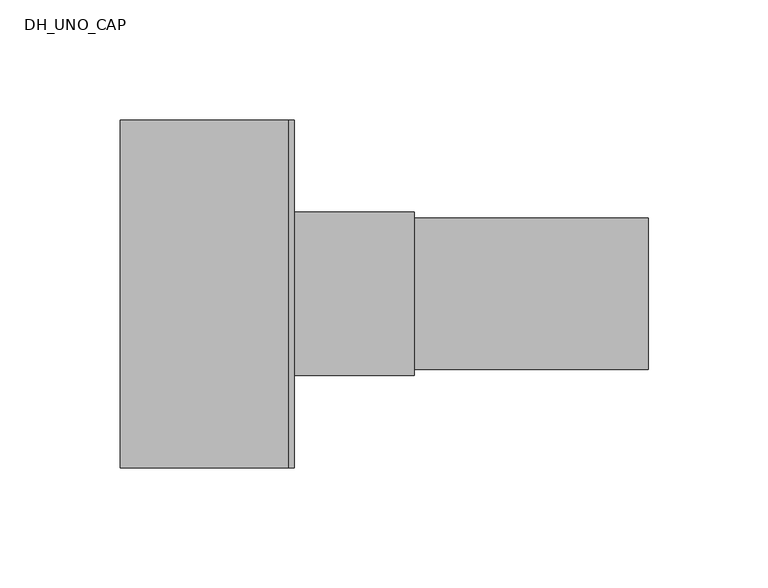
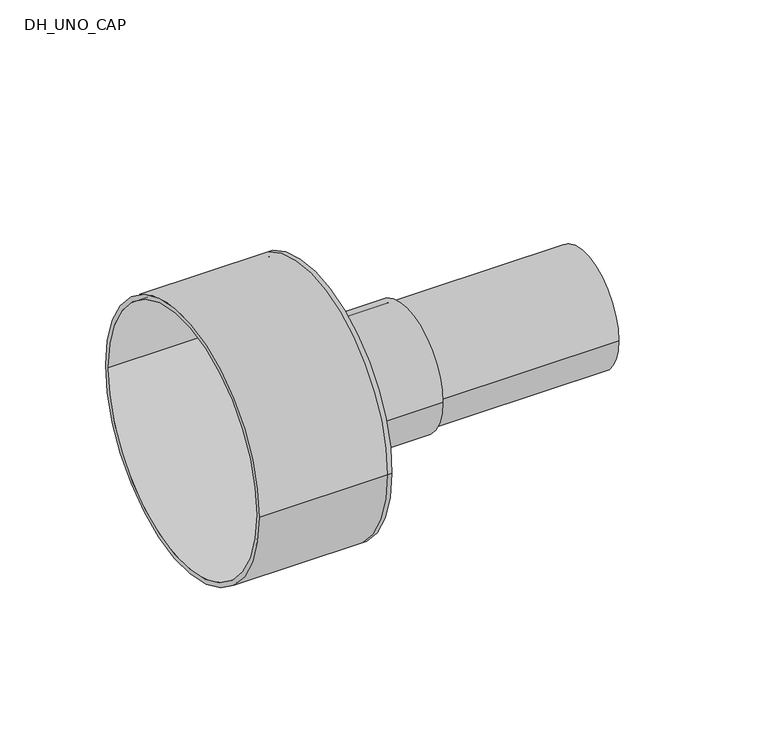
"""IFC4 building model written with IfcOpenShell, lengths in millimetres: pipe fitting geometry, DH_UNO_CAP : INSULPEX UNO + 11 Heating - Rubber Cap."""

from ifc_helpers import new_model, si_unit, point, frame, origin, origin_2d, place, context, project, spatial, polyline, circle_curve, trimmed, segment, composite_curve, outline, extrude, source, transform, mapped, element, save
from ifc_brep_helpers import plane_surface, cylinder_surface, revolved_surface, advanced_brep


def dh_uno_cap_60eb62a6(model_context):
    return source(origin(), model_context, "Body", "SolidModel", [
        extrude(outline(composite_curve([segment(trimmed(circle_curve(origin_2d(), 31.5), [point((-31.5, 0.0))], [point((31.5, 0.0))], False, "CARTESIAN"), True, "CONTINUOUS"), segment(trimmed(circle_curve(origin_2d(), 31.5), [point((31.5, 0.0))], [point((-31.5, 0.0))], False, "CARTESIAN"), True, "CONTINUOUS")], self_intersect=False), holes=[composite_curve([segment(trimmed(circle_curve(origin_2d(), 25.7), [point((-25.7, 0.0))], [point((25.7, 0.0))], True, "CARTESIAN"), True, "CONTINUOUS"), segment(trimmed(circle_curve(origin_2d(), 25.7), [point((25.7, 0.0))], [point((-25.7, 0.0))], True, "CARTESIAN"), True, "CONTINUOUS")], self_intersect=False)]), frame((0.0, 0.0, 0.0), z_axis=(1.0, 0.0, 0.0), x_axis=(0.0, 1.0, 0.0)), (0.0, 0.0, 1.0), 150.0),
        advanced_brep(
        [(-70.0, -72.5, 0.0), (-70.0, 72.5, 0.0), (-70.0, -70.0, 0.0), (-70.0, 70.0, 0.0), (0.0, -70.0, 0.0), (0.0, 70.0, 0.0), (0.0, -72.5, 0.0), (0.0, 72.5, 0.0), (0.0, 31.5, 0.0), (0.0, -31.5, 0.0), (2.5, -72.5, 0.0), (2.5, 72.5, 0.0), (2.5, -31.5, 0.0), (2.5, 31.5, 0.0)],
        [
            (0, 1, circle_curve(frame((-70.0, 0.0, 0.0), z_axis=(-1.0, 0.0, 0.0), x_axis=(0.0, 1.0, 0.0)), 72.5)),
            (1, 0, circle_curve(frame((-70.0, 0.0, 0.0), z_axis=(-1.0, 0.0, 0.0), x_axis=(0.0, 1.0, 0.0)), 72.5)),
            (2, 3, circle_curve(frame((-70.0, 0.0, 0.0), z_axis=(1.0, 0.0, 0.0), x_axis=(0.0, 1.0, 0.0)), 70.0)),
            (3, 2, circle_curve(frame((-70.0, 0.0, 0.0), z_axis=(1.0, 0.0, 0.0), x_axis=(0.0, 1.0, 0.0)), 70.0)),
            (2, 4),
            (4, 5, circle_curve(frame((0.0, 0.0, 0.0), z_axis=(1.0, 0.0, 0.0), x_axis=(0.0, 1.0, 0.0)), 70.0)),
            (5, 3),
            (5, 4, circle_curve(frame((0.0, 0.0, 0.0), z_axis=(1.0, 0.0, 0.0), x_axis=(0.0, 1.0, 0.0)), 70.0)),
            (0, 6),
            (6, 7, circle_curve(frame((0.0, 0.0, 0.0), z_axis=(-1.0, 0.0, 0.0), x_axis=(0.0, 1.0, 0.0)), 72.5)),
            (7, 1),
            (7, 6, circle_curve(frame((0.0, 0.0, 0.0), z_axis=(-1.0, 0.0, 0.0), x_axis=(0.0, 1.0, 0.0)), 72.5)),
            (8, 9, circle_curve(frame((0.0, 0.0, 0.0), z_axis=(1.0, 0.0, 0.0), x_axis=(0.0, 1.0, 0.0)), 31.5)),
            (9, 8, circle_curve(frame((0.0, 0.0, 0.0), z_axis=(1.0, 0.0, 0.0), x_axis=(0.0, 1.0, 0.0)), 31.5)),
            (10, 11, circle_curve(frame((2.5, 0.0, 0.0), z_axis=(1.0, 0.0, 0.0), x_axis=(0.0, 1.0, 0.0)), 72.5)),
            (11, 10, circle_curve(frame((2.5, 0.0, 0.0), z_axis=(1.0, 0.0, 0.0), x_axis=(0.0, 1.0, 0.0)), 72.5)),
            (12, 13, circle_curve(frame((2.5, 0.0, 0.0), z_axis=(-1.0, 0.0, 0.0), x_axis=(0.0, 1.0, 0.0)), 31.5)),
            (13, 12, circle_curve(frame((2.5, 0.0, 0.0), z_axis=(-1.0, 0.0, 0.0), x_axis=(0.0, 1.0, 0.0)), 31.5)),
            (11, 7),
            (6, 10),
            (8, 13),
            (12, 9),
        ],
        [
            plane_surface(frame((-70.0, 0.0, 0.0), z_axis=(-1.0, 0.0, 0.0), x_axis=(0.0, 0.0, 1.0))),
            revolved_surface(polyline([(0.0, 70.0, 0.0), (-70.0, 70.0, 0.0)]), (-70.0, 0.0, 0.0), (1.0, 0.0, 0.0)),
            cylinder_surface(frame((-70.0, 0.0, 0.0), z_axis=(-1.0, 0.0, 0.0), x_axis=(0.0, 1.0, 0.0)), 72.5),
            plane_surface(frame((0.0, 0.0, 0.0), z_axis=(-1.0, 0.0, 0.0), x_axis=(0.0, 0.0, 1.0))),
            plane_surface(frame((2.5, 0.0, 0.0), z_axis=(1.0, 0.0, 0.0), x_axis=(0.0, 0.0, 1.0))),
            cylinder_surface(frame((0.0, 0.0, 0.0), z_axis=(-1.0, 0.0, 0.0), x_axis=(0.0, 1.0, 0.0)), 72.5),
            revolved_surface(polyline([(0.0, 31.5, 0.0), (2.5, 31.5, 0.0)]), (0.0, 0.0, 0.0), (-1.0, 0.0, 0.0)),
        ],
        [
            (0, [[1, 2], [3, 4]]),
            (1, [[-3, 5, 6, 7]]),
            (1, [[-4, -7, 8, -5]]),
            (2, [[-1, 9, 10, 11]]),
            (2, [[-2, -11, 12, -9]]),
            (3, [[-6, -8], [13, 14]]),
            (4, [[15, 16], [17, 18]]),
            (5, [[-16, 19, -10, 20]]),
            (5, [[-15, -20, -12, -19]]),
            (6, [[21, -17, 22, -13]]),
            (6, [[-21, -14, -22, -18]]),
        ],
    ),
        extrude(outline(composite_curve([segment(trimmed(circle_curve(origin_2d(), 34.0), [point((-34.0, 0.0))], [point((34.0, 0.0))], False, "CARTESIAN"), True, "CONTINUOUS"), segment(trimmed(circle_curve(origin_2d(), 34.0), [point((34.0, 0.0))], [point((-34.0, 0.0))], False, "CARTESIAN"), True, "CONTINUOUS")], self_intersect=False), holes=[composite_curve([segment(trimmed(circle_curve(origin_2d(), 31.5), [point((-31.5, 0.0))], [point((31.5, 0.0))], True, "CARTESIAN"), True, "CONTINUOUS"), segment(trimmed(circle_curve(origin_2d(), 31.5), [point((31.5, 0.0))], [point((-31.5, 0.0))], True, "CARTESIAN"), True, "CONTINUOUS")], self_intersect=False)]), frame((2.5, 0.0, 0.0), z_axis=(1.0, 0.0, 0.0), x_axis=(0.0, 1.0, 0.0)), (0.0, 0.0, 1.0), 50.0),
    ])


if __name__ == "__main__":
    model = new_model("IFC4")
    model_context = context("Model", 3, world=origin())
    ifc_project = project(units=[si_unit("LENGTHUNIT", "METRE", prefix="MILLI")], contexts=[model_context])
    site = spatial("IfcSite", under=ifc_project)
    building = spatial("IfcBuilding", under=site)
    placement = place(None, origin())
    dh_uno_cap_shape = dh_uno_cap_60eb62a6(model_context)
    element("IfcPipeFitting", 1, ObjectType="DH_UNO_CAP : INSULPEX UNO + 11 Heating - Rubber Cap", at=placement, inside=building, context=model_context, shape_type="MappedRepresentation", body=[
        mapped(dh_uno_cap_shape, transform((0.0, 0.0, 0.0), x_axis=(1.0, 0.0, 0.0), y_axis=(0.0, 1.0, 0.0), z_axis=(0.0, 0.0, 1.0))),
    ])
    save(model, "model.ifc")
